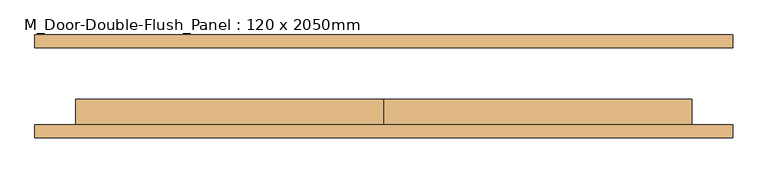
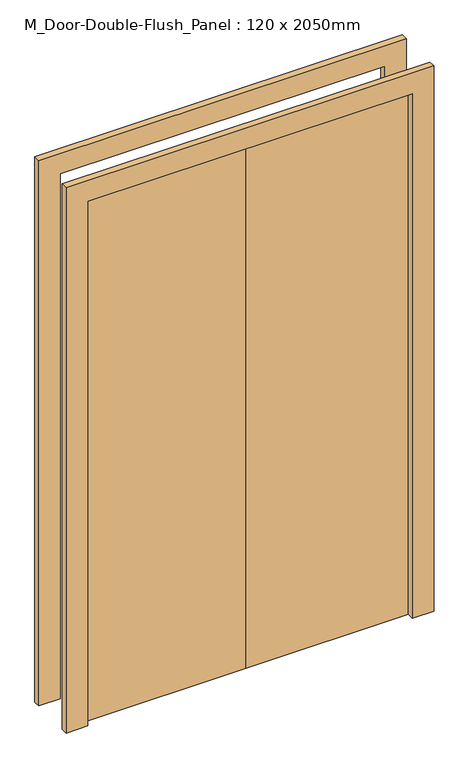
"""IFC4 building model written with IfcOpenShell, lengths in millimetres: door geometry, M_Door-Double-Flush_Panel : 120 x 2050mm."""

from ifc_helpers import new_model, si_unit, frame, origin, origin_with_axes, place, context, project, spatial, polyline, outline, extrude, source, transform, mapped, element, save


def m_door_double_flush_panel_120_x_2050mm_a4d84b97(model_context):
    return source(origin(), model_context, "Body", "SweptSolid", [
        extrude(outline(polyline([(2050.0, -600.0), (2050.0, 600.0), (0.0, 600.0), (0.0, 680.0), (2130.0, 680.0), (2130.0, -680.0), (0.0, -680.0), (0.0, -600.0), (2050.0, -600.0)])), frame((0.0, 75.0, 0.0), z_axis=(0.0, 1.0, 0.0), x_axis=(0.0, 0.0, 1.0)), (0.0, 0.0, 1.0), 25.0),
        extrude(outline(polyline([(2050.0, -600.0), (2050.0, 600.0), (0.0, 600.0), (0.0, 680.0), (2130.0, 680.0), (2130.0, -680.0), (0.0, -680.0), (0.0, -600.0), (2050.0, -600.0)])), frame((0.0, -100.0, 0.0), z_axis=(0.0, 1.0, 0.0), x_axis=(0.0, 0.0, 1.0)), (0.0, 0.0, 1.0), 25.0),
        extrude(outline(polyline([(0.0, -75.0), (0.0, -25.0), (600.0, -25.0), (600.0, -75.0), (0.0, -75.0)])), origin_with_axes(), (0.0, 0.0, 1.0), 2050.0),
        extrude(outline(polyline([(-600.0, -75.0), (-600.0, -25.0), (0.0, -25.0), (0.0, -75.0), (-600.0, -75.0)])), origin_with_axes(), (0.0, 0.0, 1.0), 2050.0),
    ])


if __name__ == "__main__":
    model = new_model("IFC4")
    model_context = context("Model", 3, world=origin())
    ifc_project = project(units=[si_unit("LENGTHUNIT", "METRE", prefix="MILLI")], contexts=[model_context])
    site = spatial("IfcSite", under=ifc_project)
    building = spatial("IfcBuilding", under=site)
    placement = place(None, origin())
    m_door_double_flush_panel_120_x_2050mm_shape = m_door_double_flush_panel_120_x_2050mm_a4d84b97(model_context)
    element("IfcDoor", 1, ObjectType="M_Door-Double-Flush_Panel : 120 x 2050mm", at=placement, inside=building, context=model_context, shape_type="MappedRepresentation", body=[
        mapped(m_door_double_flush_panel_120_x_2050mm_shape, transform((0.0, 0.0, 0.0), x_axis=(1.0, 0.0, 0.0), y_axis=(0.0, 1.0, 0.0), z_axis=(0.0, 0.0, 1.0))),
    ])
    save(model, "model.ifc")
